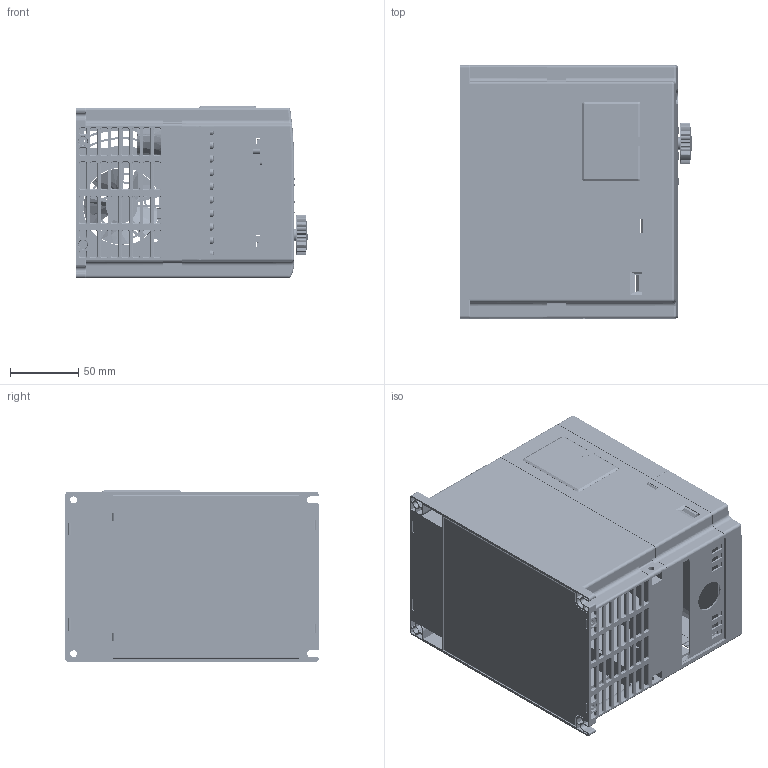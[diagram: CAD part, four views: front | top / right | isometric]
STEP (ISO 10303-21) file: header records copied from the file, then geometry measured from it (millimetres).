
FILE_DESCRIPTION((''),'2;1');
FILE_NAME('0R4-1R5_ASM','2022-12-09T',('500081'),(''),'CREO PARAMETRIC BY PTC INC, 2014350','CREO PARAMETRIC BY PTC INC, 2014350','');
FILE_SCHEMA(('CONFIG_CONTROL_DESIGN'));
Products named in the file (41): 0R4-1R5_A; L-M4X8-LOU-XEN; 0R4-1R5_A_0_ASM; L-FS-60X60X25; 0R4-1R5_E; 0R4-1R5_E_ASM; 0R4-1R5_G; SCED_TB1000-03-10; 0R4-1R5_A_ASM; 0R4-1R5_B; L-M3X4-LOU-XEN; 0R4-1R5_B_0_ASM; PG; PG_CT; PG_ASM; 0R4-1R5_H; 0R4-1R5_F; 0R4-1R5_J; 0R4-1R5_B_ASM; 0R4-1R5_C; JP_JIANPANKE; JP_BOLIBAN; JP_MIANMO; JP_MIANMO_ASM; JP_Z_ASM; JP_PCB; 2P-SHUMAGUAN; 3P-SHUMAGUAN; 5PP_ASM; JP_BIANMAQI; JP_QINGCHUKAIGUAN; JP_GONGTOU; JP_LED; JP_PCB_ASM; JP_XUANNIU; JP_JIANPANGAI; JP_JIANPANGAI_ASM; JP_Z1_ASM; 0R4-1R5_C_ASM; 0R4-1R5_D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
Assembly tree (57 placements, depth 6):
  0R4-1R5_ASM
    0R4-1R5_A_ASM
      0R4-1R5_A_0_ASM
        0R4-1R5_A
        L-M4X8-LOU-XEN  x2
      L-FS-60X60X25
      0R4-1R5_E_ASM
        0R4-1R5_E
      0R4-1R5_G
      SCED_TB1000-03-10
    0R4-1R5_B_ASM
      0R4-1R5_B_0_ASM
        0R4-1R5_B
        L-M3X4-LOU-XEN  x2
      PG
      PG_ASM
        PG
        PG_CT
      0R4-1R5_H
      0R4-1R5_F
      0R4-1R5_J
    0R4-1R5_C_ASM
      0R4-1R5_C
      JP_Z1_ASM
        JP_Z_ASM
          JP_JIANPANKE
          JP_BOLIBAN
          JP_MIANMO_ASM
            JP_MIANMO
        JP_PCB_ASM
          JP_PCB
          5PP_ASM
            2P-SHUMAGUAN
            3P-SHUMAGUAN
          JP_BIANMAQI
          JP_QINGCHUKAIGUAN  x9
          JP_GONGTOU
          JP_LED  x7
        JP_XUANNIU
        JP_JIANPANGAI_ASM
          JP_JIANPANGAI
    0R4-1R5_D
Bounding box: 170.1 x 186 x 126.2 mm (x, y, z)
Volume: 467546.9 mm3; surface area: 558336.2 mm2
Topology: 55 solids, 55 shells, 8273 faces, 21658 edges, 13847 vertices
Faces by surface type: plane 5236, cylinder 1980, cone 330, torus 300, extrusion 247, bspline 114, sphere 66
Entity records: 309459 total; most frequent: CARTESIAN_POINT 54437, ORIENTED_EDGE 38800, DIRECTION 37677, PRESENTATION_STYLE_ASSIGNMENT 20444, STYLED_ITEM 19480, CURVE_STYLE 19400, EDGE_CURVE 19400, VECTOR 13763
